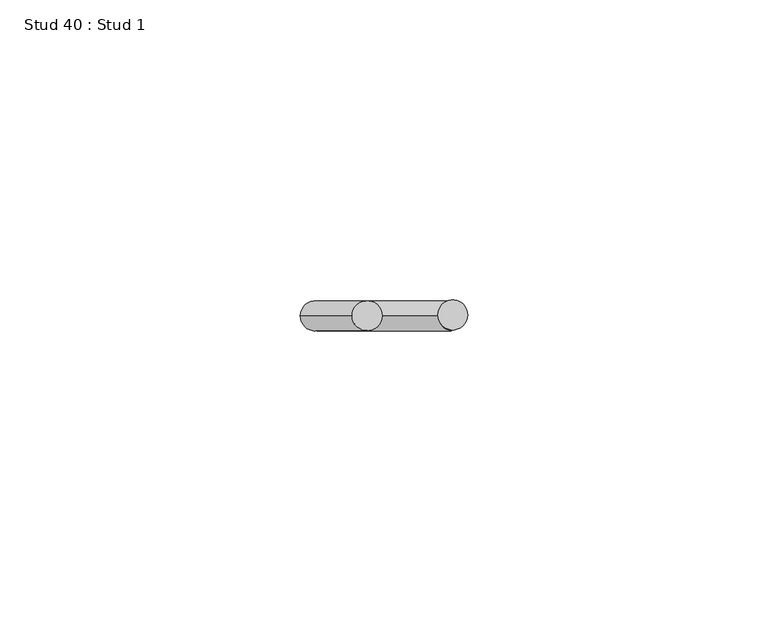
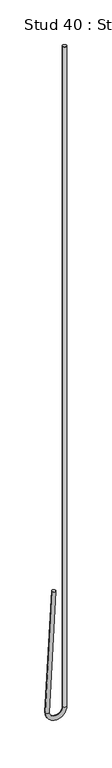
"""IFC4 building model written with IfcOpenShell, lengths in millimetres: proxy geometry, Stud 40 : Stud 1."""

import ifcopenshell
import ifcopenshell.guid

model = None  # the IFC model being written
_history = None  # IfcOwnerHistory: only IFC2X3 demands one
_inside = {}  # id of a spatial element -> (the spatial element, [elements in it])
_under = {}  # id of a project, library or spatial element -> (it, [spatial elements below it])
_declared = {}  # id of a project -> (the project, [libraries it declares])
_typed = {}  # id of a type object -> (the type object, [elements of that type])
_made_of = {}  # id of a material, layer set ... -> (it, [elements and type objects made of it])


def new_model(schema):
    """Start an empty IFC model of exactly this schema.

    Asked for "IFC4X3", IfcOpenShell would pick the latest addendum, in which some entities
    have other attributes; the version numbers below select the first issue.
    IFC2X3 requires an IfcOwnerHistory on every rooted entity: one is made here for all.
    """
    global model, _history
    if schema == "IFC4X3":
        model = ifcopenshell.file(schema_version=(4, 3, 0, 0))
    else:
        model = ifcopenshell.file(schema=schema)
    _inside.clear()
    _under.clear()
    _declared.clear()
    _typed.clear()
    _made_of.clear()
    _history = None
    if model.schema == "IFC2X3":
        org = make("IfcOrganization", Name="unknown")
        user = make(
            "IfcPersonAndOrganization",
            ThePerson=make("IfcPerson", FamilyName="unknown"),
            TheOrganization=org,
        )
        app = make(
            "IfcApplication",
            ApplicationDeveloper=org,
            Version="unknown",
            ApplicationFullName="unknown",
            ApplicationIdentifier="unknown",
        )
        _history = make(
            "IfcOwnerHistory",
            OwningUser=user,
            OwningApplication=app,
            ChangeAction="ADDED",
            CreationDate=0,
        )
    return model


def make(cls, **values):
    """One entity of the class cls with the attributes given. An attribute that is None is left unset."""
    return model.create_entity(
        cls, **{name: value for name, value in values.items() if value is not None}
    )


def rooted(cls, **values):
    """An entity with a GlobalId (a new one), such as an element, a storey or a relation."""
    return make(cls, GlobalId=ifcopenshell.guid.new(), OwnerHistory=_history, **values)


def si_unit(unit_type, name, prefix=None):
    """IfcSIUnit, for example si_unit("LENGTHUNIT", "METRE", prefix="MILLI")."""
    return make("IfcSIUnit", UnitType=unit_type, Prefix=prefix, Name=name)


def assignment(units):
    """IfcUnitAssignment: the units of a project."""
    return None if units is None else make("IfcUnitAssignment", Units=units)


def point(xyz):
    """IfcCartesianPoint."""
    return None if xyz is None else make("IfcCartesianPoint", Coordinates=xyz)


def direction(xyz):
    """IfcDirection."""
    return None if xyz is None else make("IfcDirection", DirectionRatios=xyz)


def frame(location, z_axis=None, x_axis=None):
    """IfcAxis2Placement3D, a coordinate frame: its origin and axes. An axis left out is left unset."""
    return make(
        "IfcAxis2Placement3D",
        Location=point(location),
        Axis=direction(z_axis),
        RefDirection=direction(x_axis),
    )


def origin():
    """The frame at (0, 0, 0) with its axes left unset."""
    return frame((0.0, 0.0, 0.0))


def place(relative_to, where):
    """IfcLocalPlacement: puts the frame where relative to a parent placement (None: the world)."""
    return make(
        "IfcLocalPlacement", PlacementRelTo=relative_to, RelativePlacement=where
    )


def context(
    kind, dimensions, precision=None, world=None, true_north=None, identifier=None
):
    """IfcGeometricRepresentationContext, for example the 3D "Model" context."""
    return make(
        "IfcGeometricRepresentationContext",
        ContextIdentifier=identifier,
        ContextType=kind,
        CoordinateSpaceDimension=dimensions,
        Precision=precision,
        WorldCoordinateSystem=world,
        TrueNorth=true_north,
    )


def project(units=None, contexts=None):
    """IfcProject with its units and contexts."""
    return rooted(
        "IfcProject",
        Name="project",
        RepresentationContexts=contexts,
        UnitsInContext=assignment(units),
    )


def spatial(cls, under=None, at=None, **own):
    """A site, building, storey or space (cls), placed at a placement, below another one or the project."""
    s = rooted(cls, ObjectPlacement=at, **own)
    if under is not None:
        _under.setdefault(under.id(), (under, []))[1].append(s)
    return s


def circle_curve(where, radius):
    """IfcCircle in the frame where."""
    return make("IfcCircle", Position=where, Radius=radius)


def ellipse_curve(where, semi_axis1, semi_axis2):
    """IfcEllipse in the frame where."""
    return make(
        "IfcEllipse", Position=where, SemiAxis1=semi_axis1, SemiAxis2=semi_axis2
    )


def trimmed(basis, trim1, trim2, sense, master):
    """IfcTrimmedCurve: the piece of a basis curve between two trims."""
    return make(
        "IfcTrimmedCurve",
        BasisCurve=basis,
        Trim1=trim1,
        Trim2=trim2,
        SenseAgreement=sense,
        MasterRepresentation=master,
    )


def shape(context_of_items, identifier, shape_type, items):
    """IfcShapeRepresentation: the items that make up one representation, for example the "Body"."""
    return make(
        "IfcShapeRepresentation",
        ContextOfItems=context_of_items,
        RepresentationIdentifier=identifier,
        RepresentationType=shape_type,
        Items=items,
    )


def source(mapping_origin, context_of_items, identifier, shape_type, items):
    """IfcRepresentationMap: a shape defined once, which mapped items show again and again."""
    return make(
        "IfcRepresentationMap",
        MappingOrigin=mapping_origin,
        MappedRepresentation=shape(context_of_items, identifier, shape_type, items),
    )


def transform(
    local_origin,
    x_axis=None,
    y_axis=None,
    z_axis=None,
    scale=None,
    scale2=None,
    scale3=None,
    uniform=True,
):
    """IfcCartesianTransformationOperator3D, or its non-uniform kind. x_axis, y_axis, z_axis: its Axis1, 2, 3."""
    if uniform:
        return make(
            "IfcCartesianTransformationOperator3D",
            Axis1=direction(x_axis),
            Axis2=direction(y_axis),
            LocalOrigin=point(local_origin),
            Scale=scale,
            Axis3=direction(z_axis),
        )
    return make(
        "IfcCartesianTransformationOperator3DnonUniform",
        Axis1=direction(x_axis),
        Axis2=direction(y_axis),
        LocalOrigin=point(local_origin),
        Scale=scale,
        Axis3=direction(z_axis),
        Scale2=scale2,
        Scale3=scale3,
    )


def mapped(mapping_source, mapping_target):
    """IfcMappedItem: shows the shape of a source again, moved by a transform."""
    return make(
        "IfcMappedItem", MappingSource=mapping_source, MappingTarget=mapping_target
    )


def made_of(thing, what):
    """Note that an element or type object is made of a material, layer set ...; save() writes the relation."""
    if what is not None:
        _made_of.setdefault(what.id(), (what, []))[1].append(thing)
    return thing


def element(
    cls,
    number,
    at=None,
    inside=None,
    cuts=None,
    type_object=None,
    material=None,
    context=None,
    identifier="Body",
    shape_type=None,
    held_by="IfcProductDefinitionShape",
    body=None,
    shapes=None,
    **own,
):
    """One element of the class cls, such as IfcWall. Its Tag is "e" and its number.

    at: its placement. inside: the storey or other place that contains it. cuts: it is an
    opening in that element (IfcRelVoidsElement). A single representation is given by context,
    identifier, shape_type and body (its items); several are given by shapes. held_by: the class
    of the entity that holds the representations. save() writes the other relations.
    """
    e = rooted(cls, Tag="e%d" % number, ObjectPlacement=at, **own)
    if body is not None:
        shapes = [shape(context, identifier, shape_type, body)]
    if shapes is not None:
        e.Representation = make(held_by, Representations=shapes)
    if inside is not None:
        _inside.setdefault(inside.id(), (inside, []))[1].append(e)
    if cuts is not None:
        rooted(
            "IfcRelVoidsElement", RelatingBuildingElement=cuts, RelatedOpeningElement=e
        )
    if type_object is not None:
        _typed.setdefault(type_object.id(), (type_object, []))[1].append(e)
    return made_of(e, material)


def aggregate(whole, parts):
    """IfcRelAggregates: a whole, such as a stair, and the parts it consists of."""
    return rooted("IfcRelAggregates", RelatingObject=whole, RelatedObjects=parts)


def save(model, path):
    """Write the relations noted so far, then the file.

    IfcRelAggregates (storeys below a building ...), IfcRelContainedInSpatialStructure (elements
    in a storey), IfcRelDefinesByType, IfcRelAssociatesMaterial and IfcRelDeclares: one each for
    every whole, place, type object, material and project.
    """
    for whole, parts in _under.values():
        aggregate(whole, parts)
    for where, things in _inside.values():
        rooted(
            "IfcRelContainedInSpatialStructure",
            RelatedElements=things,
            RelatingStructure=where,
        )
    for kind, things in _typed.values():
        rooted("IfcRelDefinesByType", RelatedObjects=things, RelatingType=kind)
    for what, things in _made_of.values():
        rooted("IfcRelAssociatesMaterial", RelatedObjects=things, RelatingMaterial=what)
    for by, libraries in _declared.values():
        rooted("IfcRelDeclares", RelatingContext=by, RelatedDefinitions=libraries)
    model.write(path)


def plane_surface(at):
    """IfcPlane: the flat surface through the origin of the frame at, square to its z axis."""
    return make("IfcPlane", Position=at)


def cylinder_surface(at, radius):
    """IfcCylindricalSurface: all points at the distance radius from the z axis of the frame at."""
    return make("IfcCylindricalSurface", Position=at, Radius=radius)


def revolved_surface(curve, axis_point, axis_direction):
    """IfcSurfaceOfRevolution: the curve turned about the line through axis_point along axis_direction."""
    return make(
        "IfcSurfaceOfRevolution",
        SweptCurve=make("IfcArbitraryOpenProfileDef", ProfileType="CURVE", Curve=curve),
        AxisPosition=make("IfcAxis1Placement", Location=point(axis_point), Axis=direction(axis_direction)),
    )


def advanced_brep(points, edges, surfaces, faces):
    """IfcAdvancedBrep: a solid bounded by faces that lie on surfaces and meet in shared edges.

    An edge is (start, end): straight between two places in points (the first is 0);
    or (start, end, curve); or (start, end, curve, False) where it runs against its curve.
    A face is (place in surfaces, loops), or (place, loops, False) where it looks against
    its surface's normal. A loop lists edges by number (the first is 1), with a minus sign
    where the edge is run from its end to its start. The first loop is the outer one.
    """
    corners = [point(p) for p in points]
    vertices = [make("IfcVertexPoint", VertexGeometry=c) for c in corners]
    made = []
    for start, end, *more in edges:
        made.append(
            make(
                "IfcEdgeCurve",
                EdgeStart=vertices[start],
                EdgeEnd=vertices[end],
                EdgeGeometry=more[0] if more else make("IfcPolyline", Points=[corners[start], corners[end]]),
                SameSense=more[1] if len(more) > 1 else True,
            )
        )
    hull = []
    for where, loops, *sense in faces:
        bounds = []
        for j, loop in enumerate(loops):
            ring = [make("IfcOrientedEdge", EdgeElement=made[abs(k) - 1], Orientation=k > 0) for k in loop]
            bounds.append(
                make(
                    "IfcFaceOuterBound" if j == 0 else "IfcFaceBound",
                    Bound=make("IfcEdgeLoop", EdgeList=ring),
                    Orientation=True,
                )
            )
        hull.append(make("IfcAdvancedFace", Bounds=bounds, FaceSurface=surfaces[where], SameSense=sense[0] if sense else True))
    return make("IfcAdvancedBrep", Outer=make("IfcClosedShell", CfsFaces=hull))


def stud_40_stud_1_60232da7(model_context):
    return source(origin(), model_context, "Body", "AdvancedBrep", [
        advanced_brep(
        [(-14671.4532788, 12082.5191481, 3640.800192), (-14666.4601311, 12082.5191481, 3640.5385122), (-14680.0939451, 12082.5191481, 3475.9264558), (-14675.1007975, 12082.5191481, 3475.664776), (-14657.1920812, 12082.5191481, 3475.7956159), (-14652.1920812, 12082.5191481, 3475.7956159), (-14652.1920812, 12082.5191481, 4390.1956159), (-14657.1920812, 12082.5191481, 4390.1956159)],
        [
            (0, 1, circle_curve(frame((-14668.9567049, 12082.5191481, 3640.6693521), z_axis=(0.05233595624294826, 0.0, 0.9986295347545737), x_axis=(0.9986295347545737, 0.0, -0.05233595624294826)), 2.5)),
            (1, 0, circle_curve(frame((-14668.9567049, 12082.5191481, 3640.6693521), z_axis=(0.05233595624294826, 0.0, 0.9986295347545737), x_axis=(0.9986295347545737, 0.0, -0.05233595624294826)), 2.5)),
            (0, 2),
            (2, 3, circle_curve(frame((-14677.5973713, 12082.5191481, 3475.7956159), z_axis=(0.05233595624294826, 0.0, 0.9986295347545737), x_axis=(0.9986295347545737, 0.0, -0.05233595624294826)), 2.5)),
            (3, 1),
            (3, 2, circle_curve(frame((-14677.5973713, 12082.5191481, 3475.7956159), z_axis=(0.05233595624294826, 0.0, 0.9986295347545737), x_axis=(0.9986295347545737, 0.0, -0.05233595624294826)), 2.5)),
            (4, 3, circle_curve(frame((-14666.1447263, 12082.5191481, 3475.7956159), z_axis=(0.0, 1.0, 0.0), x_axis=(-1.0, 0.0, 0.0)), 8.952645)),
            (2, 5, circle_curve(frame((-14666.1447263, 12082.5191481, 3475.7956159), z_axis=(0.0, -1.0, 0.0), x_axis=(-1.0, 0.0, 0.0)), 13.952645)),
            (5, 4, circle_curve(frame((-14654.6920812, 12082.5191481, 3475.7956159), z_axis=(0.0, 0.0, -1.0), x_axis=(-1.0, 0.0, 0.0)), 2.5)),
            (4, 5, circle_curve(frame((-14654.6920812, 12082.5191481, 3475.7956159), z_axis=(0.0, 0.0, -1.0), x_axis=(-1.0, 0.0, 0.0)), 2.5)),
            (6, 7, circle_curve(frame((-14654.6920812, 12082.5191481, 4390.1956159), z_axis=(0.0, 0.0, 1.0), x_axis=(-1.0, 0.0, 0.0)), 2.5)),
            (7, 6, circle_curve(frame((-14654.6920812, 12082.5191481, 4390.1956159), z_axis=(0.0, 0.0, 1.0), x_axis=(-1.0, 0.0, 0.0)), 2.5)),
            (5, 6),
            (7, 4),
        ],
        [
            plane_surface(frame((-14668.9567049, 12676.2441481, 3640.6693521), z_axis=(0.05233595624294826, 0.0, 0.9986295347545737), x_axis=(0.0, -1.0, 0.0))),
            cylinder_surface(frame((-14668.9567049, 12082.5191481, 3640.6693521), z_axis=(0.05233595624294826, 0.0, 0.9986295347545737), x_axis=(0.9986295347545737, 0.0, -0.05233595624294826)), 2.5),
            revolved_surface(trimmed(ellipse_curve(frame((-14677.5973713, 12082.5191481, 3475.7956159), z_axis=(0.0, 0.0, 1.0), x_axis=(1.0, 0.0, 0.0)), 2.5, 2.5), [point((-14680.0973713, 12082.5191481, 3475.7956159))], [point((-14675.0973713, 12082.5191481, 3475.7956159))], True, "CARTESIAN"), (-14666.1447263, 12676.2441481, 3475.7956159), (0.0, -1.0, 0.0)),
            revolved_surface(trimmed(ellipse_curve(frame((-14677.5973713, 12082.5191481, 3475.7956159), z_axis=(0.0, 0.0, 1.0), x_axis=(1.0, 0.0, 0.0)), 2.5, 2.5), [point((-14675.0973713, 12082.5191481, 3475.7956159))], [point((-14680.0973713, 12082.5191481, 3475.7956159))], True, "CARTESIAN"), (-14666.1447263, 12676.2441481, 3475.7956159), (0.0, -1.0, 0.0)),
            plane_surface(frame((-14654.6920812, 12676.2441481, 4390.1956159), z_axis=(0.0, 0.0, 1.0), x_axis=(0.0, -1.0, 0.0))),
            cylinder_surface(frame((-14654.6920812, 12082.5191481, 3475.7956159), z_axis=(0.0, 0.0, -1.0), x_axis=(-1.0, 0.0, 0.0)), 2.5),
        ],
        [
            (0, [[1, 2]]),
            (1, [[-1, 3, 4, 5]]),
            (1, [[-2, -5, 6, -3]]),
            (2, [[7, -4, 8, 9]]),
            (3, [[-8, -6, -7, 10]]),
            (4, [[11, 12]]),
            (5, [[-9, 13, -12, 14]]),
            (5, [[-10, -14, -11, -13]]),
        ],
    ),
    ])


if __name__ == "__main__":
    model = new_model("IFC4")
    model_context = context("Model", 3, world=origin())
    ifc_project = project(units=[si_unit("LENGTHUNIT", "METRE", prefix="MILLI")], contexts=[model_context])
    site = spatial("IfcSite", under=ifc_project)
    building = spatial("IfcBuilding", under=site)
    placement = place(None, origin())
    stud_40_stud_1_shape = stud_40_stud_1_60232da7(model_context)
    element("IfcBuildingElementProxy", 1, Name="Stud 40 : Stud 1", ObjectType="Stud 40 : Stud 1", at=placement, inside=building, context=model_context, shape_type="MappedRepresentation", body=[
        mapped(stud_40_stud_1_shape, transform((0.0, 0.0, 0.0), x_axis=(1.0, 0.0, 0.0), y_axis=(0.0, 1.0, 0.0), z_axis=(0.0, 0.0, 1.0))),
    ])
    save(model, "model.ifc")
